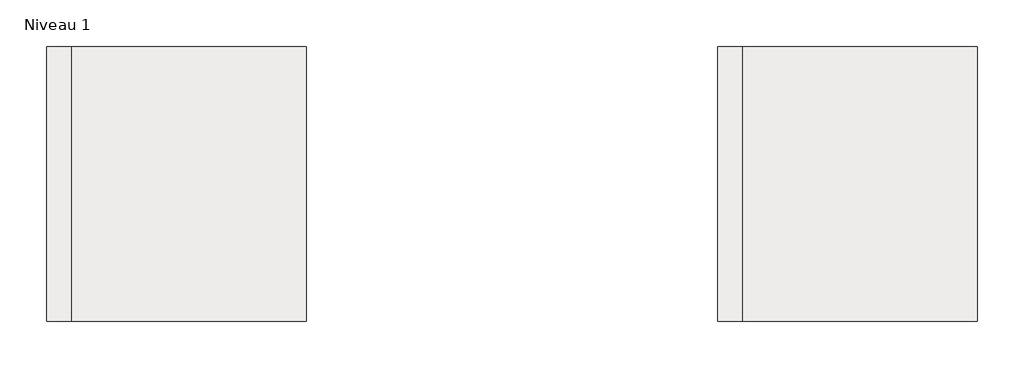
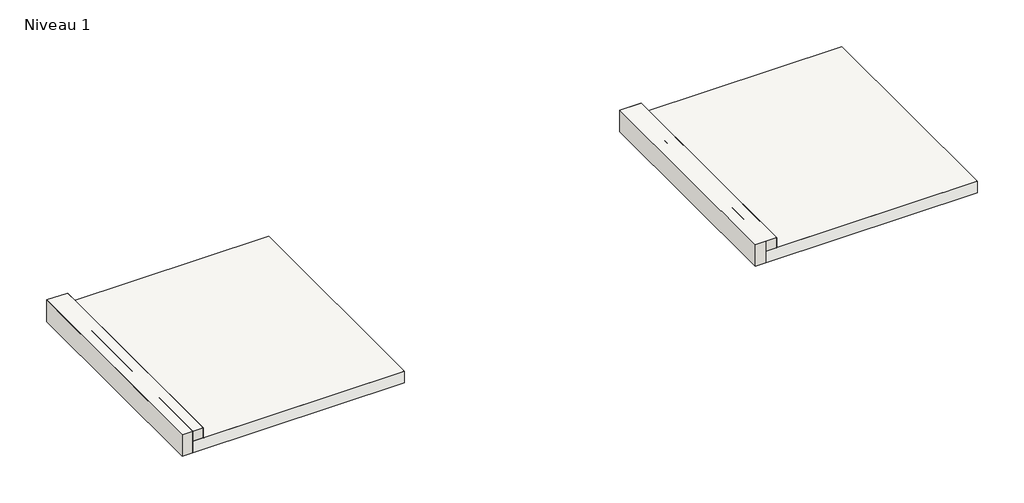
# One storey, part 1 of 3: 6 roofs, 6 walls.
"""IFC4 building model written with IfcOpenShell, lengths in millimetres."""

from ifc_helpers import new_model, si_unit, frame, origin, place, context, project, spatial, polyline, outline, extrude, element, save

model = new_model("IFC4")

# Units and contexts
model_context = context("Model", 3, world=origin())
ifc_project = project(units=[si_unit("LENGTHUNIT", "METRE", prefix="MILLI")], contexts=[model_context])

# Site, building, storey
site = spatial("IfcSite", under=ifc_project)
building = spatial("IfcBuilding", under=site)
storey = spatial("IfcBuildingStorey", under=building, Name="Niveau 1", Elevation=0.0)

# Roofs
placement = place(None, origin())
element("IfcRoof", 1, ObjectType="Membrane SECUONE EPDM collée Pre-Tape", at=placement, inside=storey, context=model_context, shape_type="SweptSolid", body=[
    extrude(outline(polyline([(6837.3553682, 5160.4913189), (6837.3553682, 11874.9528574), (12584.3053682, 11874.9528574), (12584.3053682, 5160.4913189), (6837.3553682, 5160.4913189)])), frame((0.0, 0.0, 135.2), z_axis=(0.0, 0.0, 1.0), x_axis=(1.0, 0.0, 0.0)), (0.0, 0.0, 1.0), 3.3),
])
element("IfcRoof", 2, ObjectType="Membrane SECUONE EPDM collée Pre-Tape", at=placement, inside=storey, context=model_context, shape_type="SweptSolid", body=[
    extrude(outline(polyline([(6237.3553682, 5160.4913189), (6237.3553682, 11874.9528574), (6840.6553682, 11874.9528574), (6840.6553682, 5160.4913189), (6237.3553682, 5160.4913189)])), frame((0.0, 0.0, 435.2), z_axis=(0.0, 0.0, 1.0), x_axis=(1.0, 0.0, 0.0)), (0.0, 0.0, 1.0), 3.3),
])
element("IfcRoof", 3, ObjectType="Membrane SECUONE EPDM lestée Pre-tape", at=placement, inside=storey, context=model_context, shape_type="SweptSolid", body=[
    extrude(outline(polyline([(23232.5553682, 5160.6254592), (23232.5553682, 11875.0869977), (28979.5053682, 11875.0869977), (28979.5053682, 5160.6254592), (23232.5553682, 5160.6254592)])), frame((0.0, 0.0, 135.2), z_axis=(0.0, 0.0, 1.0), x_axis=(1.0, 0.0, 0.0)), (0.0, 0.0, 1.0), 3.0),
])
element("IfcRoof", 4, ObjectType="Membrane SECUONE EPDM collée Pre-Tape", at=placement, inside=storey, context=model_context, shape_type="SweptSolid", body=[
    extrude(outline(polyline([(22632.5553682, 5160.6254592), (22632.5553682, 11875.0869977), (23235.8553682, 11875.0869977), (23235.8553682, 5160.6254592), (22632.5553682, 5160.6254592)])), frame((0.0, 0.0, 435.2), z_axis=(0.0, 0.0, 1.0), x_axis=(1.0, 0.0, 0.0)), (0.0, 0.0, 1.0), 3.3),
])
element("IfcRoof", 5, ObjectType="Toit 1", at=placement, inside=storey, context=model_context, shape_type="SweptSolid", body=[
    extrude(outline(polyline([(6537.3553682, 11874.9528574), (12584.3053682, 11874.9528574), (12584.3053682, 5160.4913189), (6537.3553682, 5160.4913189), (6537.3553682, 11874.9528574)])), frame((0.0, 0.0, -215.6), z_axis=(0.0, 0.0, 1.0), x_axis=(1.0, 0.0, 0.0)), (0.0, 0.0, 1.0), 350.8),
])
element("IfcRoof", 6, ObjectType="Toit 1", at=placement, inside=storey, context=model_context, shape_type="SweptSolid", body=[
    extrude(outline(polyline([(22932.5553682, 11875.0869977), (28979.5053682, 11875.0869977), (28979.5053682, 5160.6254592), (22932.5553682, 5160.6254592), (22932.5553682, 11875.0869977)])), frame((0.0, 0.0, -215.6), z_axis=(0.0, 0.0, 1.0), x_axis=(1.0, 0.0, 0.0)), (0.0, 0.0, 1.0), 350.8),
])

# Walls
element("IfcWall", 7, ObjectType="Membrane SECUONE EPDM collée Pre-Tape", at=placement, inside=storey, context=model_context, shape_type="SweptSolid", body=[
    extrude(outline(polyline([(6837.3553682, 5160.4913189), (6837.3553682, 11874.9528574), (6840.6553682, 11874.9528574), (6840.6553682, 5160.4913189), (6837.3553682, 5160.4913189)])), frame((0.0, 0.0, 138.5), z_axis=(0.0, 0.0, 1.0), x_axis=(1.0, 0.0, 0.0)), (0.0, 0.0, 1.0), 296.7),
])
element("IfcWall", 8, ObjectType="Membrane SECUONE EPDM collée Pre-Tape", at=placement, inside=storey, context=model_context, shape_type="SweptSolid", body=[
    extrude(outline(polyline([(23232.5553682, 5160.6254592), (23232.5553682, 11875.0869977), (23235.8553682, 11875.0869977), (23235.8553682, 5160.6254592), (23232.5553682, 5160.6254592)])), frame((0.0, 0.0, 138.2), z_axis=(0.0, 0.0, 1.0), x_axis=(1.0, 0.0, 0.0)), (0.0, 0.0, 1.0), 297.0),
])
element("IfcWall", 9, ObjectType="Mur 1", at=placement, inside=storey, context=model_context, shape_type="SweptSolid", body=[
    extrude(outline(polyline([(6237.3553682, 5160.4913189), (6237.3553682, 11874.9528574), (6537.3553682, 11874.9528574), (6537.3553682, 5160.4913189), (6237.3553682, 5160.4913189)])), frame((0.0, 0.0, -215.6), z_axis=(0.0, 0.0, 1.0), x_axis=(1.0, 0.0, 0.0)), (0.0, 0.0, 1.0), 650.8),
])
element("IfcWall", 10, ObjectType="Mur 1", at=placement, inside=storey, context=model_context, shape_type="SweptSolid", body=[
    extrude(outline(polyline([(6537.3553682, 5160.4913189), (6537.3553682, 11874.9528574), (6837.3553682, 11874.9528574), (6837.3553682, 5160.4913189), (6537.3553682, 5160.4913189)])), frame((0.0, 0.0, 135.2), z_axis=(0.0, 0.0, 1.0), x_axis=(1.0, 0.0, 0.0)), (0.0, 0.0, 1.0), 300.0),
])
element("IfcWall", 11, ObjectType="Mur 1", at=placement, inside=storey, context=model_context, shape_type="SweptSolid", body=[
    extrude(outline(polyline([(22632.5553682, 5160.6254592), (22632.5553682, 11875.0869977), (22932.5553682, 11875.0869977), (22932.5553682, 5160.6254592), (22632.5553682, 5160.6254592)])), frame((0.0, 0.0, -215.6), z_axis=(0.0, 0.0, 1.0), x_axis=(1.0, 0.0, 0.0)), (0.0, 0.0, 1.0), 650.8),
])
element("IfcWall", 12, ObjectType="Mur 1", at=placement, inside=storey, context=model_context, shape_type="SweptSolid", body=[
    extrude(outline(polyline([(22932.5553682, 5160.6254592), (22932.5553682, 11875.0869977), (23232.5553682, 11875.0869977), (23232.5553682, 5160.6254592), (22932.5553682, 5160.6254592)])), frame((0.0, 0.0, 135.2), z_axis=(0.0, 0.0, 1.0), x_axis=(1.0, 0.0, 0.0)), (0.0, 0.0, 1.0), 300.0),
])

save(model, "model.ifc")
